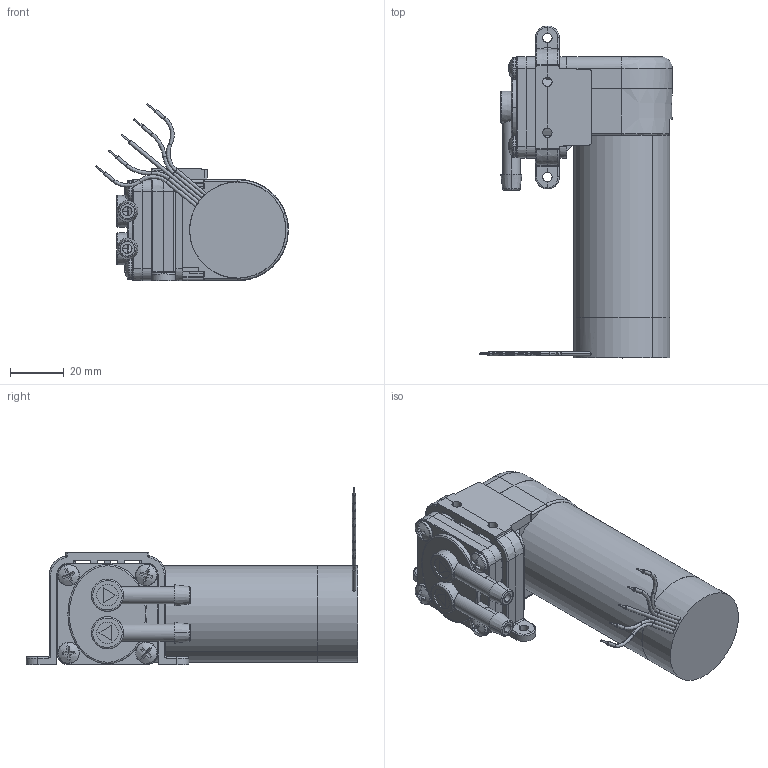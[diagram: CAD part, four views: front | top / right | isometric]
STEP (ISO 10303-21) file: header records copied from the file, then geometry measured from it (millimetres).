
FILE_DESCRIPTION (( 'STEP AP203' ), '1' );
FILE_NAME ('3111_610.STEP', '2021-05-23T13:34:19', ( '' ), ( '' ), 'SwSTEP 2.0', 'SolidWorks 2020', '' );
FILE_SCHEMA (( 'CONFIG_CONTROL_DESIGN' ));
Length unit declared in the file: millimetre
Products named in the file (1): 3111_610
Bounding box: 71.94 x 123.9 x 66.18 mm (x, y, z)
Surface area: 30896.5 mm2 (no closed solid volume)
Topology: 0 solids, 11 shells, 431 faces, 1340 edges, 911 vertices
Faces by surface type: plane 198, cylinder 102, bspline 98, cone 33
Entity records: 23154 total; most frequent: CARTESIAN_POINT 12097, ORIENTED_EDGE 2309, DIRECTION 2005, EDGE_CURVE 1340, VERTEX_POINT 911, AXIS2_PLACEMENT_3D 672, VECTOR 661, LINE 661
